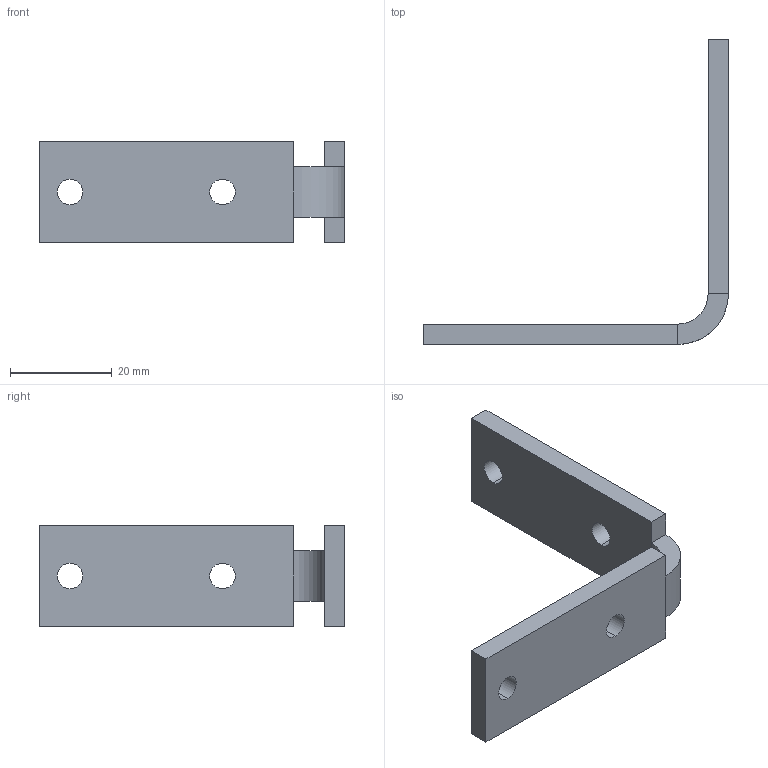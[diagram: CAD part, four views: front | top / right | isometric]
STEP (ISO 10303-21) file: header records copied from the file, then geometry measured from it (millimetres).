
FILE_DESCRIPTION (( 'STEP AP214' ), '1' );
FILE_NAME ('FBRX 20C.step', '2017-04-05T08:03:56', ( '' ), ( '' ), 'SwSTEP 2.0', 'SolidWorks 2015', '' );
FILE_SCHEMA (( 'AUTOMOTIVE_DESIGN' ));
Length unit declared in the file: millimetre
Products named in the file (1): FBRX 20C
Bounding box: 60 x 60 x 20 mm (x, y, z)
Volume: 8188.5 mm3; surface area: 5486.1 mm2
Topology: 1 solids, 1 shells, 26 faces, 64 edges, 40 vertices
Faces by surface type: plane 16, cylinder 10
Entity records: 902 total; most frequent: DIRECTION 138, CARTESIAN_POINT 131, ORIENTED_EDGE 128, EDGE_CURVE 64, AXIS2_PLACEMENT_3D 47, VECTOR 44, LINE 44, VERTEX_POINT 40
